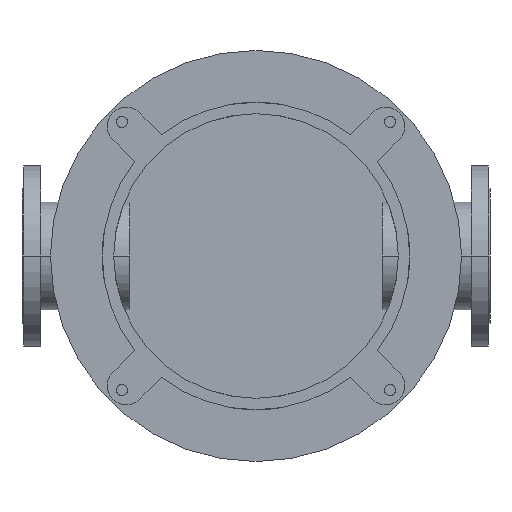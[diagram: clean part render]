
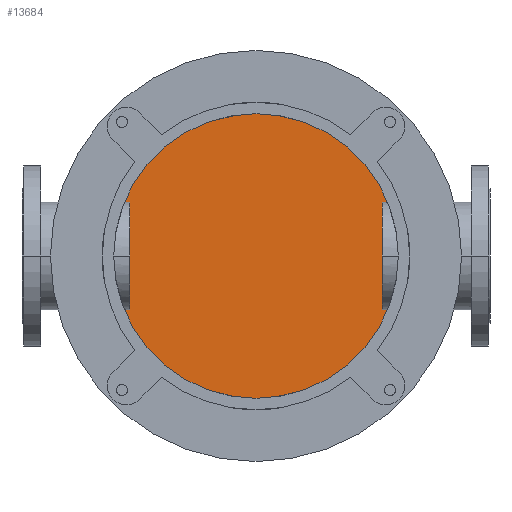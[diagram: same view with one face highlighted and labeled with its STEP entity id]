
A CAD part, front view. The second image highlights one B-rep face of the part: STEP entity #13684.
In plain terms, the highlighted planar face has unit normal (0, -1, 0).
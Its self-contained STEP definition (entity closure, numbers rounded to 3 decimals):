
#3274=CARTESIAN_POINT('',(0.,500.,0.));
#3275=DIRECTION('',(0.,-1.,0.));
#3276=DIRECTION('',(0.,0.,1.));
#3277=AXIS2_PLACEMENT_3D('',#3274,#3275,#3276);
#3407=CARTESIAN_POINT('',(0.,500.,0.));
#3408=DIRECTION('',(0.,-1.,0.));
#3409=DIRECTION('',(0.,0.,-1.));
#3410=AXIS2_PLACEMENT_3D('',#3407,#3408,#3409);
#8620=CARTESIAN_POINT('',(0.,500.,240.));
#8621=CARTESIAN_POINT('',(0.,500.,-240.));
#8622=VERTEX_POINT('',#8620);
#8623=VERTEX_POINT('',#8621);
#13674=CARTESIAN_POINT('',(0.,500.,0.));
#13675=DIRECTION('',(0.,1.,0.));
#13676=DIRECTION('',(0.,0.,-1.));
#13677=AXIS2_PLACEMENT_3D('',#13674,#13675,#13676);
#13678=PLANE('',#13677);
#13679=ORIENTED_EDGE('',*,*,#13658,.F.);
#13681=ORIENTED_EDGE('',*,*,#13680,.F.);
#13682=EDGE_LOOP('',(#13679,#13681));
#13683=FACE_OUTER_BOUND('',#13682,.F.);
#13684=ADVANCED_FACE('',(#13683),#13678,.F.);
#3278=CIRCLE('',#3277,240.);
#3411=CIRCLE('',#3410,240.);
#13658=EDGE_CURVE('',#8622,#8623,#3278,.T.);
#13680=EDGE_CURVE('',#8623,#8622,#3411,.T.);
